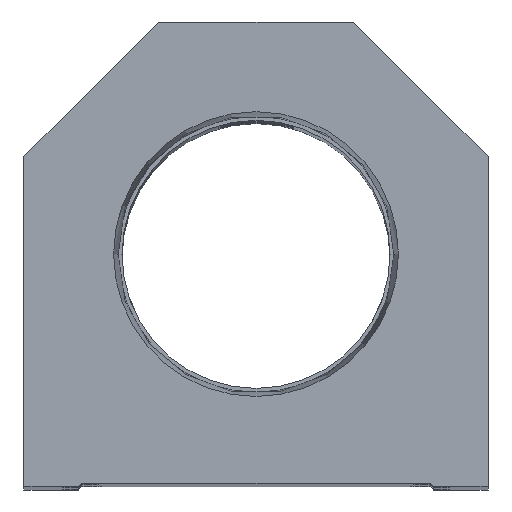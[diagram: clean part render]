
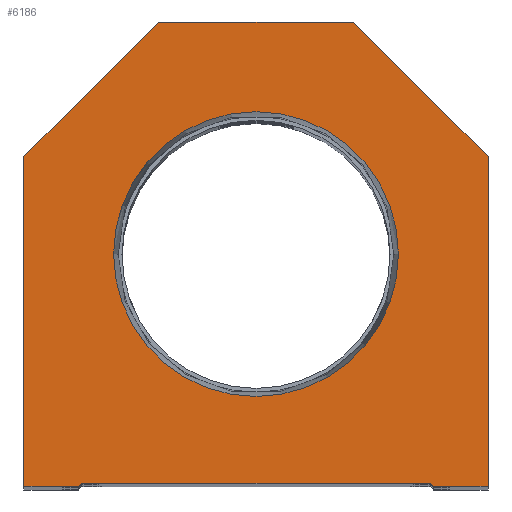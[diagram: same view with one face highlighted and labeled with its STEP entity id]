
A CAD part, top view. The second image highlights one B-rep face of the part: STEP entity #6186.
In plain terms, the highlighted planar face has unit normal (0, 0, 1).
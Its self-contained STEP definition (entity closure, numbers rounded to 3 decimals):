
#266 = VERTEX_POINT ( 'NONE', #14128 ) ;
#423 = EDGE_CURVE ( 'NONE', #5953, #7476, #14536, .T. ) ;
#546 = LINE ( 'NONE', #16673, #17945 ) ;
#551 = PLANE ( 'NONE',  #6890 ) ;
#947 = VERTEX_POINT ( 'NONE', #2657 ) ;
#965 = DIRECTION ( 'NONE',  ( 1., 0., 0. ) ) ;
#1582 = EDGE_CURVE ( 'NONE', #2377, #947, #13996, .T. ) ;
#1837 = EDGE_LOOP ( 'NONE', ( #15406, #17946 ) ) ;
#1987 = DIRECTION ( 'NONE',  ( 1., 0., 0. ) ) ;
#2040 = DIRECTION ( 'NONE',  ( 0., 0., 1. ) ) ;
#2377 = VERTEX_POINT ( 'NONE', #13437 ) ;
#2575 = ORIENTED_EDGE ( 'NONE', *, *, #18617, .T. ) ;
#2657 = CARTESIAN_POINT ( 'NONE',  ( 38.1, 54.1, 0. ) ) ;
#2710 = DIRECTION ( 'NONE',  ( 0., 1., 0. ) ) ;
#3415 = DIRECTION ( 'NONE',  ( 1., 0., 0. ) ) ;
#3687 = EDGE_CURVE ( 'NONE', #18589, #4593, #19345, .T. ) ;
#3823 = CARTESIAN_POINT ( 'NONE',  ( 0., 0., 0. ) ) ;
#3834 = CARTESIAN_POINT ( 'NONE',  ( -16., 76.2, 0. ) ) ;
#3839 = VECTOR ( 'NONE', #17669, 1000. ) ;
#3848 = CARTESIAN_POINT ( 'NONE',  ( 16., 76.2, 0. ) ) ;
#4282 = CARTESIAN_POINT ( 'NONE',  ( 38.1, 0., 0. ) ) ;
#4337 = DIRECTION ( 'NONE',  ( 0.707, -0.707, 0. ) ) ;
#4593 = VERTEX_POINT ( 'NONE', #18018 ) ;
#4683 = CARTESIAN_POINT ( 'NONE',  ( 29.1, 0., 0. ) ) ;
#5663 = EDGE_CURVE ( 'NONE', #947, #5953, #15958, .T. ) ;
#5767 = VECTOR ( 'NONE', #12098, 1000. ) ;
#5953 = VERTEX_POINT ( 'NONE', #3848 ) ;
#5968 = ORIENTED_EDGE ( 'NONE', *, *, #3687, .T. ) ;
#6186 = ADVANCED_FACE ( 'NONE', ( #13223, #19664 ), #551, .T. ) ;
#6370 = EDGE_CURVE ( 'NONE', #11650, #12485, #20028, .T. ) ;
#6810 = LINE ( 'NONE', #6913, #12204 ) ;
#6890 = AXIS2_PLACEMENT_3D ( 'NONE', #3823, #2040, #8472 ) ;
#6913 = CARTESIAN_POINT ( 'NONE',  ( -38.1, 54.1, 0. ) ) ;
#7141 = LINE ( 'NONE', #16932, #5767 ) ;
#7248 = VERTEX_POINT ( 'NONE', #4683 ) ;
#7476 = VERTEX_POINT ( 'NONE', #3834 ) ;
#7584 = LINE ( 'NONE', #14017, #20496 ) ;
#7814 = DIRECTION ( 'NONE',  ( 1., 0., 0. ) ) ;
#8472 = DIRECTION ( 'NONE',  ( 1., 0., 0. ) ) ;
#8708 = AXIS2_PLACEMENT_3D ( 'NONE', #10166, #16465, #13423 ) ;
#8898 = VECTOR ( 'NONE', #4337, 1000. ) ;
#9052 = VECTOR ( 'NONE', #12955, 1000. ) ;
#9194 = VERTEX_POINT ( 'NONE', #11833 ) ;
#9206 = CARTESIAN_POINT ( 'NONE',  ( 14.55, 14.55, 0. ) ) ;
#9239 = AXIS2_PLACEMENT_3D ( 'NONE', #14244, #20582, #7814 ) ;
#9455 = VERTEX_POINT ( 'NONE', #13181 ) ;
#9693 = CARTESIAN_POINT ( 'NONE',  ( 16., 76.2, 0. ) ) ;
#9931 = ORIENTED_EDGE ( 'NONE', *, *, #16790, .T. ) ;
#10166 = CARTESIAN_POINT ( 'NONE',  ( 0., 38.1, 0. ) ) ;
#10234 = ORIENTED_EDGE ( 'NONE', *, *, #423, .T. ) ;
#10849 = EDGE_LOOP ( 'NONE', ( #19893, #14202, #5968, #2575, #17384, #16575, #19268, #10234, #9931, #10873 ) ) ;
#10873 = ORIENTED_EDGE ( 'NONE', *, *, #14875, .T. ) ;
#11153 = VECTOR ( 'NONE', #3415, 1000. ) ;
#11650 = VERTEX_POINT ( 'NONE', #20318 ) ;
#11833 = CARTESIAN_POINT ( 'NONE',  ( -38.1, 54.1, 0. ) ) ;
#12093 = CIRCLE ( 'NONE', #8708, 23.374 ) ;
#12098 = DIRECTION ( 'NONE',  ( 0., -1., 0. ) ) ;
#12204 = VECTOR ( 'NONE', #13244, 1000. ) ;
#12485 = VERTEX_POINT ( 'NONE', #15850 ) ;
#12732 = EDGE_CURVE ( 'NONE', #12485, #11650, #12093, .T. ) ;
#12945 = EDGE_CURVE ( 'NONE', #266, #18589, #7584, .T. ) ;
#12955 = DIRECTION ( 'NONE',  ( -1., 0., 0. ) ) ;
#13157 = CARTESIAN_POINT ( 'NONE',  ( -28.6, 0., 0. ) ) ;
#13181 = CARTESIAN_POINT ( 'NONE',  ( -38.1, 0., 0. ) ) ;
#13223 = FACE_BOUND ( 'NONE', #1837, .T. ) ;
#13244 = DIRECTION ( 'NONE',  ( -0.707, -0.707, 0. ) ) ;
#13423 = DIRECTION ( 'NONE',  ( 1., 0., 0. ) ) ;
#13437 = CARTESIAN_POINT ( 'NONE',  ( 38.1, 0., 0. ) ) ;
#13990 = EDGE_CURVE ( 'NONE', #9455, #266, #15970, .T. ) ;
#13996 = LINE ( 'NONE', #4282, #16505 ) ;
#14017 = CARTESIAN_POINT ( 'NONE',  ( -14.55, 14.55, 0. ) ) ;
#14128 = CARTESIAN_POINT ( 'NONE',  ( -29.1, 0., 0. ) ) ;
#14202 = ORIENTED_EDGE ( 'NONE', *, *, #12945, .T. ) ;
#14244 = CARTESIAN_POINT ( 'NONE',  ( 0., 38.1, 0. ) ) ;
#14478 = CARTESIAN_POINT ( 'NONE',  ( -28.6, 0.5, 0. ) ) ;
#14536 = LINE ( 'NONE', #9693, #9052 ) ;
#14875 = EDGE_CURVE ( 'NONE', #9194, #9455, #7141, .T. ) ;
#15406 = ORIENTED_EDGE ( 'NONE', *, *, #6370, .F. ) ;
#15850 = CARTESIAN_POINT ( 'NONE',  ( -23.374, 38.1, 0. ) ) ;
#15958 = LINE ( 'NONE', #16284, #3839 ) ;
#15970 = LINE ( 'NONE', #13157, #17855 ) ;
#16284 = CARTESIAN_POINT ( 'NONE',  ( 38.1, 54.1, 0. ) ) ;
#16465 = DIRECTION ( 'NONE',  ( 0., 0., 1. ) ) ;
#16505 = VECTOR ( 'NONE', #2710, 1000. ) ;
#16575 = ORIENTED_EDGE ( 'NONE', *, *, #1582, .T. ) ;
#16673 = CARTESIAN_POINT ( 'NONE',  ( 28.6, 0., 0. ) ) ;
#16790 = EDGE_CURVE ( 'NONE', #7476, #9194, #6810, .T. ) ;
#16932 = CARTESIAN_POINT ( 'NONE',  ( -38.1, 0., 0. ) ) ;
#17003 = CARTESIAN_POINT ( 'NONE',  ( -28.6, 0.5, 0. ) ) ;
#17062 = EDGE_CURVE ( 'NONE', #7248, #2377, #546, .T. ) ;
#17384 = ORIENTED_EDGE ( 'NONE', *, *, #17062, .T. ) ;
#17669 = DIRECTION ( 'NONE',  ( -0.707, 0.707, 0. ) ) ;
#17855 = VECTOR ( 'NONE', #1987, 1000. ) ;
#17945 = VECTOR ( 'NONE', #965, 1000. ) ;
#17946 = ORIENTED_EDGE ( 'NONE', *, *, #12732, .F. ) ;
#18018 = CARTESIAN_POINT ( 'NONE',  ( 28.6, 0.5, 0. ) ) ;
#18589 = VERTEX_POINT ( 'NONE', #17003 ) ;
#18617 = EDGE_CURVE ( 'NONE', #4593, #7248, #20378, .T. ) ;
#19268 = ORIENTED_EDGE ( 'NONE', *, *, #5663, .T. ) ;
#19345 = LINE ( 'NONE', #14478, #11153 ) ;
#19664 = FACE_OUTER_BOUND ( 'NONE', #10849, .T. ) ;
#19893 = ORIENTED_EDGE ( 'NONE', *, *, #13990, .T. ) ;
#20028 = CIRCLE ( 'NONE', #9239, 23.374 ) ;
#20318 = CARTESIAN_POINT ( 'NONE',  ( 23.374, 38.1, 0. ) ) ;
#20378 = LINE ( 'NONE', #9206, #8898 ) ;
#20450 = DIRECTION ( 'NONE',  ( 0.707, 0.707, 0. ) ) ;
#20496 = VECTOR ( 'NONE', #20450, 1000. ) ;
#20582 = DIRECTION ( 'NONE',  ( 0., 0., 1. ) ) ;
